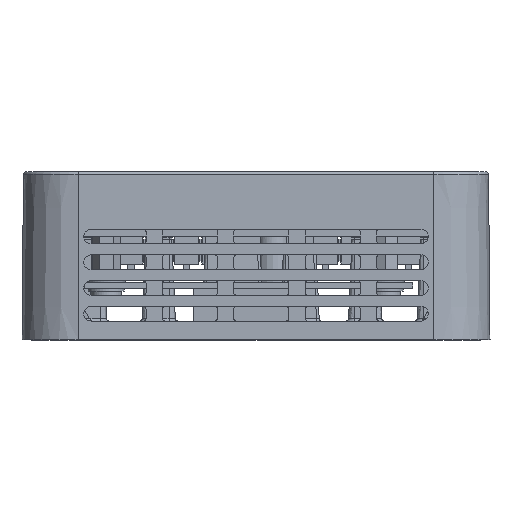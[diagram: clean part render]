
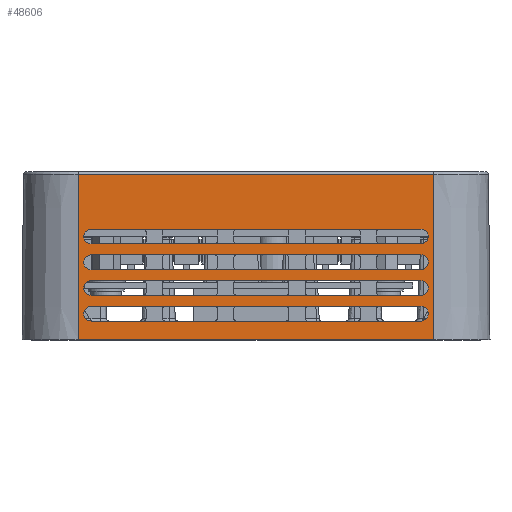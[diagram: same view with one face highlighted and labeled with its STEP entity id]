
A CAD part, left-side view. The second image highlights one B-rep face of the part: STEP entity #48606.
In plain terms, the highlighted planar face has unit normal (-1, 0, 0.009) as drawn and (1, 0, -0.009) by its records, which use the part's own axes.
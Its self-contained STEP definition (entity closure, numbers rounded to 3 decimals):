
#22958=CARTESIAN_POINT('',(77.768,-32.5,15.35));
#22959=VERTEX_POINT('',#22958);
#22967=CARTESIAN_POINT('',(77.768,32.5,15.35));
#22968=VERTEX_POINT('',#22967);
#22969=CARTESIAN_POINT('',(77.768,32.5,15.35));
#22970=DIRECTION('',(0.0,-1.0,0.0));
#22971=VECTOR('',#22970,65.);
#22972=LINE('',#22969,#22971);
#22973=EDGE_CURVE('',#22968,#22959,#22972,.T.);
#47650=CARTESIAN_POINT('',(77.715,-30.15,9.241));
#47651=VERTEX_POINT('',#47650);
#47658=CARTESIAN_POINT('',(77.715,30.15,9.241));
#47659=VERTEX_POINT('',#47658);
#47660=CARTESIAN_POINT('',(77.715,-30.15,9.241));
#47661=DIRECTION('',(0.0,1.0,0.0));
#47662=VECTOR('',#47661,60.3);
#47663=LINE('',#47660,#47662);
#47664=EDGE_CURVE('',#47659,#47651,#47663,.F.);
#47852=CARTESIAN_POINT('',(77.738,30.15,11.941));
#47853=VERTEX_POINT('',#47852);
#47860=CARTESIAN_POINT('',(77.738,-30.15,11.941));
#47861=VERTEX_POINT('',#47860);
#47862=CARTESIAN_POINT('',(77.738,30.15,11.941));
#47863=DIRECTION('',(0.0,-1.0,0.0));
#47864=VECTOR('',#47863,60.3);
#47865=LINE('',#47862,#47864);
#47866=EDGE_CURVE('',#47861,#47853,#47865,.F.);
#48450=CARTESIAN_POINT('',(77.634,42.5,-0.001));
#48451=DIRECTION('',(1.,0.0,-0.009));
#48452=DIRECTION('',(-0.009,0.0,-1.));
#48453=AXIS2_PLACEMENT_3D('',#48450,#48451,#48452);
#48454=PLANE('',#48453);
#48455=CARTESIAN_POINT('',(77.504,32.5,-14.85));
#48456=VERTEX_POINT('',#48455);
#48457=CARTESIAN_POINT('',(77.504,-32.5,-14.85));
#48458=VERTEX_POINT('',#48457);
#48459=CARTESIAN_POINT('',(77.504,-32.5,-14.85));
#48460=DIRECTION('',(0.0,1.0,0.0));
#48461=VECTOR('',#48460,65.);
#48462=LINE('',#48459,#48461);
#48463=EDGE_CURVE('',#48456,#48458,#48462,.F.);
#48464=ORIENTED_EDGE('',*,*,#48463,.F.);
#48465=CARTESIAN_POINT('',(77.768,32.5,15.35));
#48466=DIRECTION('',(-0.009,0.0,-1.));
#48467=VECTOR('',#48466,30.201);
#48468=LINE('',#48465,#48467);
#48469=EDGE_CURVE('',#22968,#48456,#48468,.T.);
#48470=ORIENTED_EDGE('',*,*,#48469,.F.);
#48471=ORIENTED_EDGE('',*,*,#22973,.T.);
#48472=CARTESIAN_POINT('',(77.504,-32.5,-14.85));
#48473=DIRECTION('',(0.009,0.0,1.));
#48474=VECTOR('',#48473,30.201);
#48475=LINE('',#48472,#48474);
#48476=EDGE_CURVE('',#48458,#22959,#48475,.T.);
#48477=ORIENTED_EDGE('',*,*,#48476,.F.);
#48478=EDGE_LOOP('',(#48464,#48470,#48471,#48477));
#48479=FACE_OUTER_BOUND('',#48478,.T.);
#48480=CARTESIAN_POINT('',(77.615,-30.15,-2.159));
#48481=VERTEX_POINT('',#48480);
#48482=CARTESIAN_POINT('',(77.615,30.15,-2.159));
#48483=VERTEX_POINT('',#48482);
#48484=CARTESIAN_POINT('',(77.615,30.15,-2.159));
#48485=DIRECTION('',(0.0,-1.0,0.0));
#48486=VECTOR('',#48485,60.3);
#48487=LINE('',#48484,#48486);
#48488=EDGE_CURVE('',#48481,#48483,#48487,.F.);
#48489=ORIENTED_EDGE('',*,*,#48488,.T.);
#48490=CARTESIAN_POINT('',(77.592,30.15,-4.859));
#48491=VERTEX_POINT('',#48490);
#48492=CARTESIAN_POINT('',(77.603,30.15,-3.509));
#48493=DIRECTION('',(-1.,0.,0.009));
#48494=DIRECTION('',(0.009,0.,1.));
#48495=AXIS2_PLACEMENT_3D('',#48492,#48493,#48494);
#48496=ELLIPSE('',#48495,1.35,1.35);
#48497=EDGE_CURVE('',#48491,#48483,#48496,.F.);
#48498=ORIENTED_EDGE('',*,*,#48497,.F.);
#48499=CARTESIAN_POINT('',(77.592,-30.15,-4.859));
#48500=VERTEX_POINT('',#48499);
#48501=CARTESIAN_POINT('',(77.592,-30.15,-4.859));
#48502=DIRECTION('',(0.0,1.0,0.0));
#48503=VECTOR('',#48502,60.3);
#48504=LINE('',#48501,#48503);
#48505=EDGE_CURVE('',#48491,#48500,#48504,.F.);
#48506=ORIENTED_EDGE('',*,*,#48505,.T.);
#48507=CARTESIAN_POINT('',(77.603,-30.15,-3.509));
#48508=DIRECTION('',(-1.,0.,0.009));
#48509=DIRECTION('',(-0.009,0.,-1.));
#48510=AXIS2_PLACEMENT_3D('',#48507,#48508,#48509);
#48511=ELLIPSE('',#48510,1.35,1.35);
#48512=EDGE_CURVE('',#48481,#48500,#48511,.F.);
#48513=ORIENTED_EDGE('',*,*,#48512,.F.);
#48514=EDGE_LOOP('',(#48489,#48498,#48506,#48513));
#48515=FACE_BOUND('',#48514,.T.);
#48516=ORIENTED_EDGE('',*,*,#47866,.T.);
#48517=CARTESIAN_POINT('',(77.726,30.15,10.591));
#48518=DIRECTION('',(-1.,0.,0.009));
#48519=DIRECTION('',(0.009,0.,1.));
#48520=AXIS2_PLACEMENT_3D('',#48517,#48518,#48519);
#48521=ELLIPSE('',#48520,1.35,1.35);
#48522=EDGE_CURVE('',#47659,#47853,#48521,.F.);
#48523=ORIENTED_EDGE('',*,*,#48522,.F.);
#48524=ORIENTED_EDGE('',*,*,#47664,.T.);
#48525=CARTESIAN_POINT('',(77.726,-30.15,10.591));
#48526=DIRECTION('',(-1.,0.,0.009));
#48527=DIRECTION('',(-0.009,0.,-1.));
#48528=AXIS2_PLACEMENT_3D('',#48525,#48526,#48527);
#48529=ELLIPSE('',#48528,1.35,1.35);
#48530=EDGE_CURVE('',#47861,#47651,#48529,.F.);
#48531=ORIENTED_EDGE('',*,*,#48530,.F.);
#48532=EDGE_LOOP('',(#48516,#48523,#48524,#48531));
#48533=FACE_BOUND('',#48532,.T.);
#48534=CARTESIAN_POINT('',(77.633,30.15,-0.159));
#48535=VERTEX_POINT('',#48534);
#48536=CARTESIAN_POINT('',(77.633,-30.15,-0.159));
#48537=VERTEX_POINT('',#48536);
#48538=CARTESIAN_POINT('',(77.633,-30.15,-0.159));
#48539=DIRECTION('',(0.0,1.0,0.0));
#48540=VECTOR('',#48539,60.3);
#48541=LINE('',#48538,#48540);
#48542=EDGE_CURVE('',#48535,#48537,#48541,.F.);
#48543=ORIENTED_EDGE('',*,*,#48542,.T.);
#48544=CARTESIAN_POINT('',(77.656,-30.15,2.541));
#48545=VERTEX_POINT('',#48544);
#48546=CARTESIAN_POINT('',(77.644,-30.15,1.191));
#48547=DIRECTION('',(-1.,0.,0.009));
#48548=DIRECTION('',(-0.009,0.,-1.));
#48549=AXIS2_PLACEMENT_3D('',#48546,#48547,#48548);
#48550=ELLIPSE('',#48549,1.35,1.35);
#48551=EDGE_CURVE('',#48545,#48537,#48550,.F.);
#48552=ORIENTED_EDGE('',*,*,#48551,.F.);
#48553=CARTESIAN_POINT('',(77.656,30.15,2.541));
#48554=VERTEX_POINT('',#48553);
#48555=CARTESIAN_POINT('',(77.656,30.15,2.541));
#48556=DIRECTION('',(0.0,-1.0,0.0));
#48557=VECTOR('',#48556,60.3);
#48558=LINE('',#48555,#48557);
#48559=EDGE_CURVE('',#48545,#48554,#48558,.F.);
#48560=ORIENTED_EDGE('',*,*,#48559,.T.);
#48561=CARTESIAN_POINT('',(77.644,30.15,1.191));
#48562=DIRECTION('',(-1.,0.,0.009));
#48563=DIRECTION('',(0.009,0.,1.));
#48564=AXIS2_PLACEMENT_3D('',#48561,#48562,#48563);
#48565=ELLIPSE('',#48564,1.35,1.35);
#48566=EDGE_CURVE('',#48535,#48554,#48565,.F.);
#48567=ORIENTED_EDGE('',*,*,#48566,.F.);
#48568=EDGE_LOOP('',(#48543,#48552,#48560,#48567));
#48569=FACE_BOUND('',#48568,.T.);
#48570=CARTESIAN_POINT('',(77.697,-30.15,7.241));
#48571=VERTEX_POINT('',#48570);
#48572=CARTESIAN_POINT('',(77.697,30.15,7.241));
#48573=VERTEX_POINT('',#48572);
#48574=CARTESIAN_POINT('',(77.697,30.15,7.241));
#48575=DIRECTION('',(0.0,-1.0,0.0));
#48576=VECTOR('',#48575,60.3);
#48577=LINE('',#48574,#48576);
#48578=EDGE_CURVE('',#48571,#48573,#48577,.F.);
#48579=ORIENTED_EDGE('',*,*,#48578,.T.);
#48580=CARTESIAN_POINT('',(77.674,30.15,4.541));
#48581=VERTEX_POINT('',#48580);
#48582=CARTESIAN_POINT('',(77.685,30.15,5.891));
#48583=DIRECTION('',(-1.,0.,0.009));
#48584=DIRECTION('',(0.009,0.,1.));
#48585=AXIS2_PLACEMENT_3D('',#48582,#48583,#48584);
#48586=ELLIPSE('',#48585,1.35,1.35);
#48587=EDGE_CURVE('',#48581,#48573,#48586,.F.);
#48588=ORIENTED_EDGE('',*,*,#48587,.F.);
#48589=CARTESIAN_POINT('',(77.674,-30.15,4.541));
#48590=VERTEX_POINT('',#48589);
#48591=CARTESIAN_POINT('',(77.674,-30.15,4.541));
#48592=DIRECTION('',(0.0,1.0,0.0));
#48593=VECTOR('',#48592,60.3);
#48594=LINE('',#48591,#48593);
#48595=EDGE_CURVE('',#48581,#48590,#48594,.F.);
#48596=ORIENTED_EDGE('',*,*,#48595,.T.);
#48597=CARTESIAN_POINT('',(77.685,-30.15,5.891));
#48598=DIRECTION('',(-1.,0.,0.009));
#48599=DIRECTION('',(-0.009,0.,-1.));
#48600=AXIS2_PLACEMENT_3D('',#48597,#48598,#48599);
#48601=ELLIPSE('',#48600,1.35,1.35);
#48602=EDGE_CURVE('',#48571,#48590,#48601,.F.);
#48603=ORIENTED_EDGE('',*,*,#48602,.F.);
#48604=EDGE_LOOP('',(#48579,#48588,#48596,#48603));
#48605=FACE_BOUND('',#48604,.T.);
#48606=ADVANCED_FACE('',(#48479,#48515,#48533,#48569,#48605),#48454,.T.);
